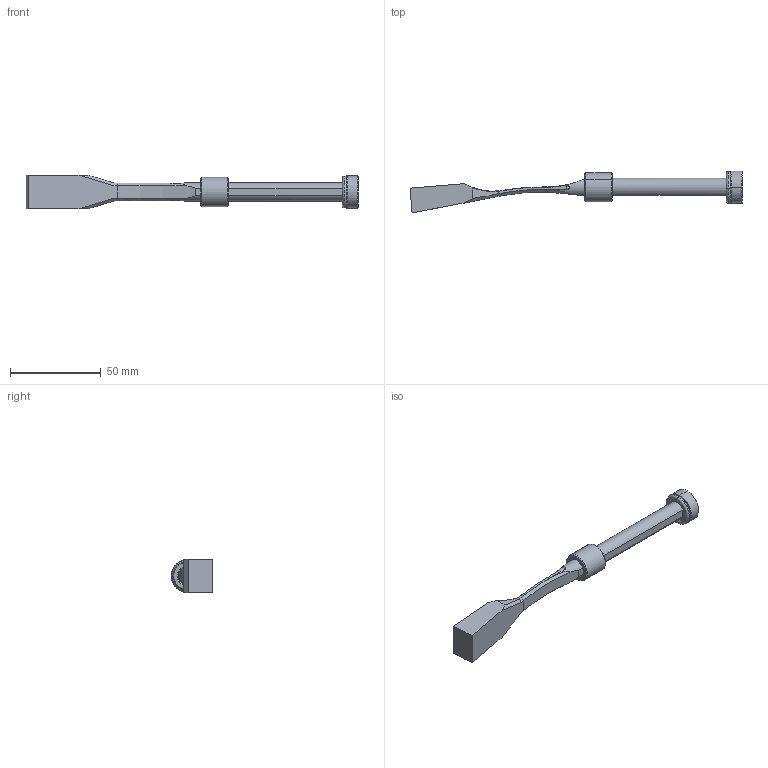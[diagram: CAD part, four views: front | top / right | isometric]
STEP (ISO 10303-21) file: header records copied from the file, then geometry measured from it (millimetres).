
FILE_DESCRIPTION (( 'STEP AP214' ), '1' );
FILE_NAME ('PW101830.STEP', '2020-02-10T08:50:37', ( '' ), ( '' ), 'SwSTEP 2.0', 'SolidWorks 2018', '' );
FILE_SCHEMA (( 'AUTOMOTIVE_DESIGN' ));
Length unit declared in the file: millimetre
Products named in the file (6): 3JT12.5X2.5X17.5; 1DIN7984616_DIN 7984 - M6 x 16 --- 16C; PW101830; 9CS101615; 9FP1808M6; 9PW101830
Assembly tree (5 placements, depth 2):
  PW101830
    9PW101830
    9CS101615
    9FP1808M6
    3JT12.5X2.5X17.5
    1DIN7984616_DIN 7984 - M6 x 16 --- 16C
Bounding box: 182.5 x 22.96 x 18.2 mm (x, y, z)
Volume: 19160 mm3; surface area: 10601.3 mm2
Topology: 5 solids, 5 shells, 108 faces, 245 edges, 146 vertices
Faces by surface type: plane 38, cone 28, cylinder 24, torus 16, bspline 2
Entity records: 3607 total; most frequent: CARTESIAN_POINT 725, DIRECTION 557, ORIENTED_EDGE 482, EDGE_CURVE 241, AXIS2_PLACEMENT_3D 224, VERTEX_POINT 146, EDGE_LOOP 117, CIRCLE 110
